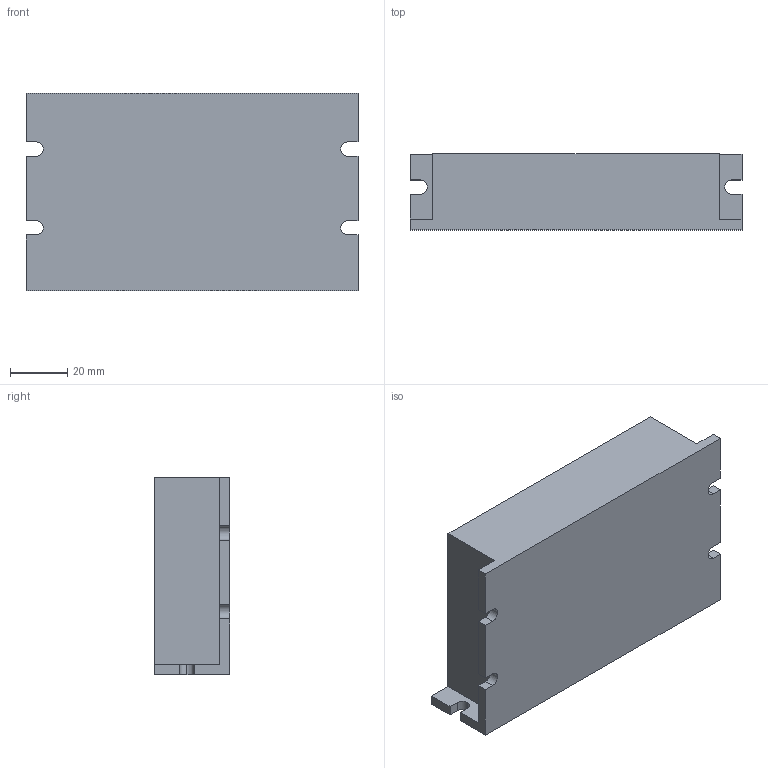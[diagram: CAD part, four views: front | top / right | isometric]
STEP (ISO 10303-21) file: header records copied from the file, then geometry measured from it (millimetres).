
FILE_DESCRIPTION (( 'STEP AP214' ), '1' );
FILE_NAME ('T60.STEP', '2020-06-05T08:35:52', ( 'wimxt.com' ), ( 'wimxt.com' ), 'SwSTEP 2.0', 'SolidWorks 2014', '' );
FILE_SCHEMA (( 'AUTOMOTIVE_DESIGN' ));
Length unit declared in the file: millimetre
Products named in the file (1): T60
Bounding box: 116 x 26.5 x 69 mm (x, y, z)
Volume: 187428.3 mm3; surface area: 25692.1 mm2
Topology: 1 solids, 1 shells, 37 faces, 105 edges, 70 vertices
Faces by surface type: plane 30, cylinder 7
Entity records: 1227 total; most frequent: CARTESIAN_POINT 213, ORIENTED_EDGE 210, DIRECTION 195, EDGE_CURVE 105, LINE 91, VECTOR 91, VERTEX_POINT 70, AXIS2_PLACEMENT_3D 52
